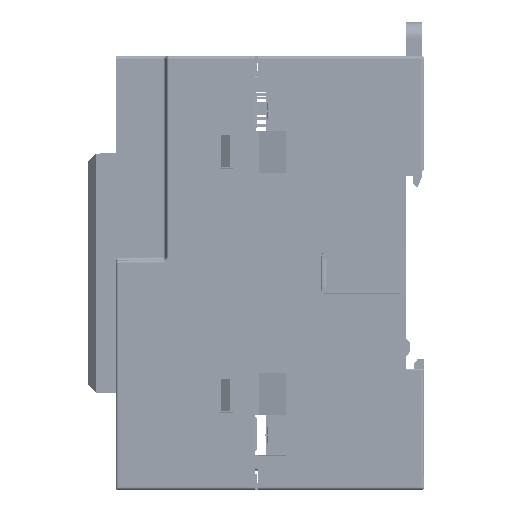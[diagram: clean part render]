
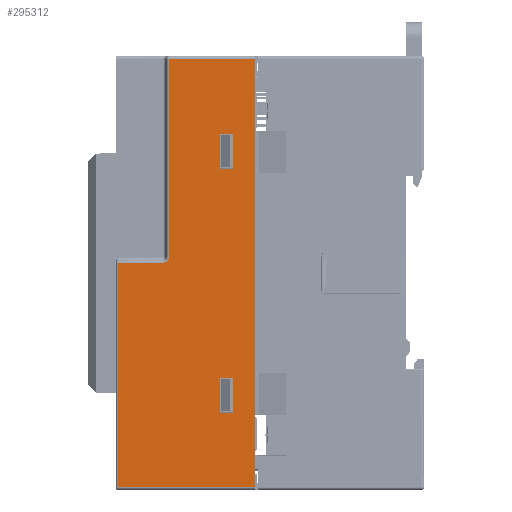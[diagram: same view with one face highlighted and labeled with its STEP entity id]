
A CAD part, left-side view. The second image highlights one B-rep face of the part: STEP entity #295312.
In plain terms, the highlighted planar face has unit normal (-1, 0, 0).
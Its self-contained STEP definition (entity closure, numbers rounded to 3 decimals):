
#268618=DIRECTION('',(0.,1.,0.));
#268619=VECTOR('',#268618,7.9);
#268620=CARTESIAN_POINT('',(-60.25,20.7,39.5));
#268621=LINE('',#268620,#268619);
#268625=DIRECTION('',(0.,1.,0.));
#268626=VECTOR('',#268625,8.);
#268627=CARTESIAN_POINT('',(-60.25,28.6,39.5));
#268628=LINE('',#268627,#268626);
#268663=DIRECTION('',(0.,0.,-1.));
#268664=VECTOR('',#268663,36.574);
#268665=CARTESIAN_POINT('',(-60.25,36.6,39.5));
#268666=LINE('',#268665,#268664);
#268936=DIRECTION('',(0.,-1.,0.009));
#268937=VECTOR('',#268936,8.309);
#268938=CARTESIAN_POINT('',(-60.25,45.9,1.853));
#268939=LINE('',#268938,#268937);
#268943=CARTESIAN_POINT('',(-60.25,37.6,2.926));
#268944=DIRECTION('',(-1.,0.,0.));
#268945=DIRECTION('',(0.,-0.009,-1.));
#268946=AXIS2_PLACEMENT_3D('',#268943,#268944,#268945);
#268951=DIRECTION('',(0.,0.,-1.));
#268952=VECTOR('',#268951,79.);
#268953=CARTESIAN_POINT('',(-60.25,20.7,39.5));
#268954=LINE('',#268953,#268952);
#268958=DIRECTION('',(0.,1.,0.));
#268959=VECTOR('',#268958,2.435);
#268960=CARTESIAN_POINT('',(-60.25,24.683,25.717));
#268961=LINE('',#268960,#268959);
#268965=DIRECTION('',(0.,0.,-1.));
#268966=VECTOR('',#268965,6.435);
#268967=CARTESIAN_POINT('',(-60.25,27.117,25.717));
#268968=LINE('',#268967,#268966);
#268972=DIRECTION('',(0.,-1.,0.));
#268973=VECTOR('',#268972,2.435);
#268974=CARTESIAN_POINT('',(-60.25,27.117,19.283));
#268975=LINE('',#268974,#268973);
#268979=DIRECTION('',(0.,0.,1.));
#268980=VECTOR('',#268979,6.435);
#268981=CARTESIAN_POINT('',(-60.25,24.683,19.283));
#268982=LINE('',#268981,#268980);
#268986=DIRECTION('',(0.,-1.,0.));
#268987=VECTOR('',#268986,2.435);
#268988=CARTESIAN_POINT('',(-60.25,27.117,-25.717));
#268989=LINE('',#268988,#268987);
#268993=DIRECTION('',(0.,0.,1.));
#268994=VECTOR('',#268993,6.435);
#268995=CARTESIAN_POINT('',(-60.25,24.683,-25.717));
#268996=LINE('',#268995,#268994);
#269000=DIRECTION('',(0.,1.,0.));
#269001=VECTOR('',#269000,2.435);
#269002=CARTESIAN_POINT('',(-60.25,24.683,-19.283));
#269003=LINE('',#269002,#269001);
#269007=DIRECTION('',(0.,0.,-1.));
#269008=VECTOR('',#269007,6.435);
#269009=CARTESIAN_POINT('',(-60.25,27.117,-19.283));
#269010=LINE('',#269009,#269008);
#269045=DIRECTION('',(0.,0.,-1.));
#269046=VECTOR('',#269045,41.353);
#269047=CARTESIAN_POINT('',(-60.25,45.9,1.853));
#269048=LINE('',#269047,#269046);
#269083=DIRECTION('',(0.,-1.,0.));
#269084=VECTOR('',#269083,25.2);
#269085=CARTESIAN_POINT('',(-60.25,45.9,-39.5));
#269086=LINE('',#269085,#269084);
#288923=CARTESIAN_POINT('',(-60.25,20.7,39.5));
#288925=VERTEX_POINT('',#288923);
#288962=CARTESIAN_POINT('',(-60.25,20.7,-39.5));
#288963=VERTEX_POINT('',#288962);
#288965=CARTESIAN_POINT('',(-60.25,36.6,39.5));
#288967=VERTEX_POINT('',#288965);
#288970=CARTESIAN_POINT('',(-60.25,28.6,39.5));
#288971=VERTEX_POINT('',#288970);
#288976=CARTESIAN_POINT('',(-60.25,36.6,2.926));
#288977=VERTEX_POINT('',#288976);
#289039=CARTESIAN_POINT('',(-60.25,37.591,1.926));
#289040=VERTEX_POINT('',#289039);
#289041=CARTESIAN_POINT('',(-60.25,45.9,1.853));
#289042=VERTEX_POINT('',#289041);
#289043=CARTESIAN_POINT('',(-60.25,45.9,-39.5));
#289044=VERTEX_POINT('',#289043);
#289045=CARTESIAN_POINT('',(-60.25,24.683,25.717));
#289046=CARTESIAN_POINT('',(-60.25,27.117,25.717));
#289047=VERTEX_POINT('',#289045);
#289048=VERTEX_POINT('',#289046);
#289049=CARTESIAN_POINT('',(-60.25,27.117,19.283));
#289050=VERTEX_POINT('',#289049);
#289051=CARTESIAN_POINT('',(-60.25,24.683,19.283));
#289052=VERTEX_POINT('',#289051);
#289053=CARTESIAN_POINT('',(-60.25,27.117,-25.717));
#289054=CARTESIAN_POINT('',(-60.25,24.683,-25.717));
#289055=VERTEX_POINT('',#289053);
#289056=VERTEX_POINT('',#289054);
#289057=CARTESIAN_POINT('',(-60.25,24.683,-19.283));
#289058=VERTEX_POINT('',#289057);
#289059=CARTESIAN_POINT('',(-60.25,27.117,-19.283));
#289060=VERTEX_POINT('',#289059);
#295274=CARTESIAN_POINT('',(-60.25,33.3,0.));
#295275=DIRECTION('',(1.,0.,0.));
#295276=DIRECTION('',(0.,0.,1.));
#295277=AXIS2_PLACEMENT_3D('',#295274,#295275,#295276);
#295278=PLANE('',#295277);
#295280=ORIENTED_EDGE('',*,*,#295279,.T.);
#295281=ORIENTED_EDGE('',*,*,#295258,.T.);
#295282=ORIENTED_EDGE('',*,*,#294967,.F.);
#295283=ORIENTED_EDGE('',*,*,#294927,.F.);
#295284=ORIENTED_EDGE('',*,*,#294925,.F.);
#295285=ORIENTED_EDGE('',*,*,#294901,.T.);
#295287=ORIENTED_EDGE('',*,*,#295286,.F.);
#295289=ORIENTED_EDGE('',*,*,#295288,.F.);
#295290=EDGE_LOOP('',(#295280,#295281,#295282,#295283,#295284,#295285,#295287,
#295289));
#295291=FACE_OUTER_BOUND('',#295290,.F.);
#295293=ORIENTED_EDGE('',*,*,#295292,.T.);
#295295=ORIENTED_EDGE('',*,*,#295294,.T.);
#295297=ORIENTED_EDGE('',*,*,#295296,.T.);
#295299=ORIENTED_EDGE('',*,*,#295298,.T.);
#295300=EDGE_LOOP('',(#295293,#295295,#295297,#295299));
#295301=FACE_BOUND('',#295300,.F.);
#295303=ORIENTED_EDGE('',*,*,#295302,.T.);
#295305=ORIENTED_EDGE('',*,*,#295304,.T.);
#295307=ORIENTED_EDGE('',*,*,#295306,.T.);
#295309=ORIENTED_EDGE('',*,*,#295308,.T.);
#295310=EDGE_LOOP('',(#295303,#295305,#295307,#295309));
#295311=FACE_BOUND('',#295310,.F.);
#268947=CIRCLE('',#268946,1.);
#294901=EDGE_CURVE('',#288925,#288963,#268954,.T.);
#294925=EDGE_CURVE('',#288925,#288971,#268621,.T.);
#294927=EDGE_CURVE('',#288971,#288967,#268628,.T.);
#294967=EDGE_CURVE('',#288967,#288977,#268666,.T.);
#295258=EDGE_CURVE('',#289040,#288977,#268947,.T.);
#295279=EDGE_CURVE('',#289042,#289040,#268939,.T.);
#295286=EDGE_CURVE('',#289044,#288963,#269086,.T.);
#295288=EDGE_CURVE('',#289042,#289044,#269048,.T.);
#295292=EDGE_CURVE('',#289047,#289048,#268961,.T.);
#295294=EDGE_CURVE('',#289048,#289050,#268968,.T.);
#295296=EDGE_CURVE('',#289050,#289052,#268975,.T.);
#295298=EDGE_CURVE('',#289052,#289047,#268982,.T.);
#295302=EDGE_CURVE('',#289055,#289056,#268989,.T.);
#295304=EDGE_CURVE('',#289056,#289058,#268996,.T.);
#295306=EDGE_CURVE('',#289058,#289060,#269003,.T.);
#295308=EDGE_CURVE('',#289060,#289055,#269010,.T.);
#295312=ADVANCED_FACE('',(#295291,#295301,#295311),#295278,.F.);
